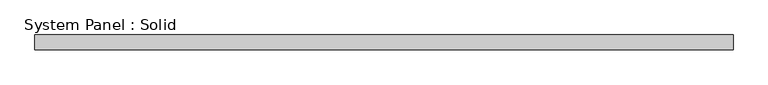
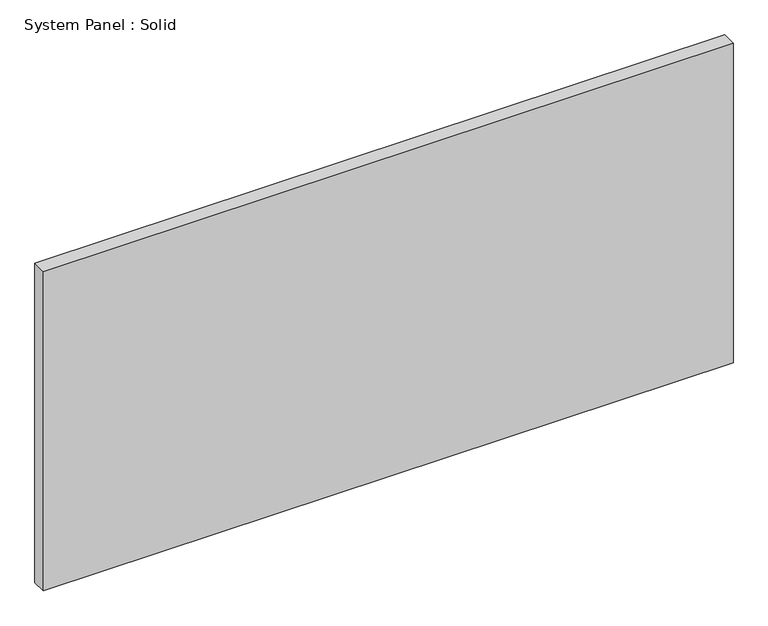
"""IFC4 building model written with IfcOpenShell, lengths in millimetres: plate geometry, System Panel : Solid."""

from ifc_helpers import new_model, si_unit, origin, origin_with_axes, place, context, project, spatial, polyline, outline, extrude, source, transform, mapped, element, save


def system_panel_solid_4f3844da(model_context):
    return source(origin(), model_context, "Body", "SweptSolid", [
        extrude(outline(polyline([(1492.25, -19.05), (-1492.25, -19.05), (-1492.25, 44.45), (1492.25, 44.45), (1492.25, -19.05)])), origin_with_axes(), (0.0, 0.0, 1.0), 1460.5),
    ])


if __name__ == "__main__":
    model = new_model("IFC4")
    model_context = context("Model", 3, world=origin())
    ifc_project = project(units=[si_unit("LENGTHUNIT", "METRE", prefix="MILLI")], contexts=[model_context])
    site = spatial("IfcSite", under=ifc_project)
    building = spatial("IfcBuilding", under=site)
    placement = place(None, origin())
    system_panel_solid_shape = system_panel_solid_4f3844da(model_context)
    element("IfcPlate", 1, ObjectType="System Panel : Solid", at=placement, inside=building, context=model_context, shape_type="MappedRepresentation", body=[
        mapped(system_panel_solid_shape, transform((0.0, 0.0, 0.0), x_axis=(1.0, 0.0, 0.0), y_axis=(0.0, 1.0, 0.0), z_axis=(0.0, 0.0, 1.0))),
    ])
    save(model, "model.ifc")
